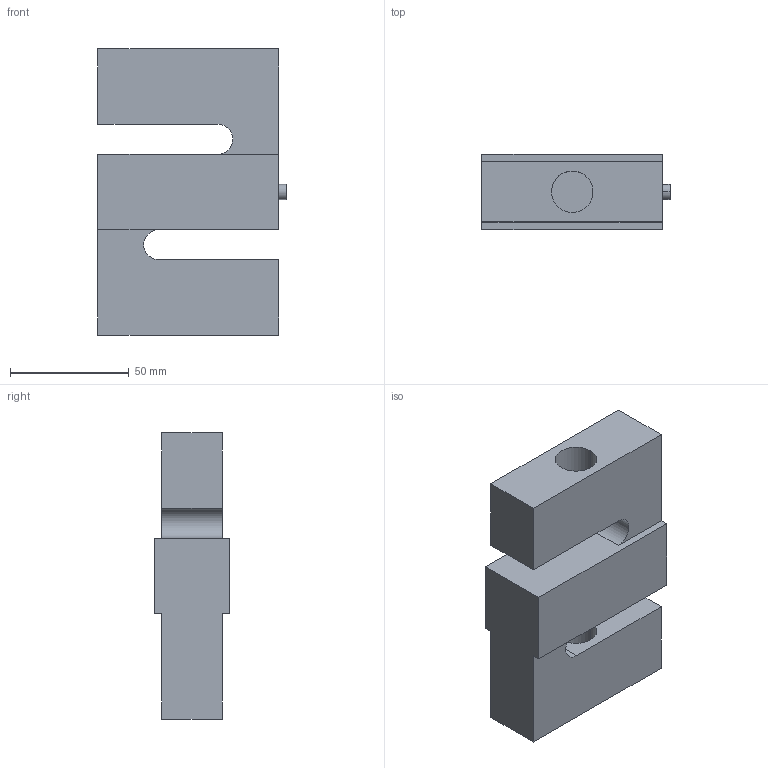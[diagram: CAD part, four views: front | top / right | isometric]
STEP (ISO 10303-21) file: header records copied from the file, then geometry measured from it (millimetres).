
FILE_DESCRIPTION (( 'STEP AP214' ), '1' );
FILE_NAME ('SS1009-10K.STEP', '2014-05-20T18:49:54', ( '' ), ( '' ), 'SwSTEP 2.0', 'SolidWorks 2008', '' );
FILE_SCHEMA (( 'AUTOMOTIVE_DESIGN' ));
Length unit declared in the file: inch
Products named in the file (1): SS1009-10K
Bounding box: 79.38 x 31.75 x 120.65 mm (x, y, z)
Volume: 197943.1 mm3; surface area: 35029.6 mm2
Topology: 1 solids, 1 shells, 25 faces, 66 edges, 44 vertices
Faces by surface type: plane 17, cylinder 8
Entity records: 863 total; most frequent: CARTESIAN_POINT 136, DIRECTION 134, ORIENTED_EDGE 132, EDGE_CURVE 66, LINE 50, VECTOR 50, VERTEX_POINT 44, AXIS2_PLACEMENT_3D 42
